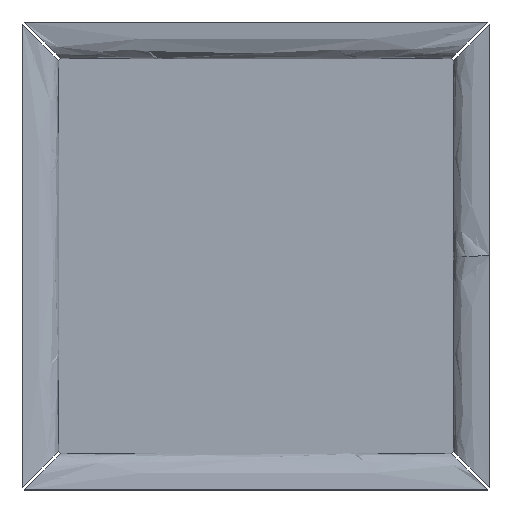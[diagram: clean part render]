
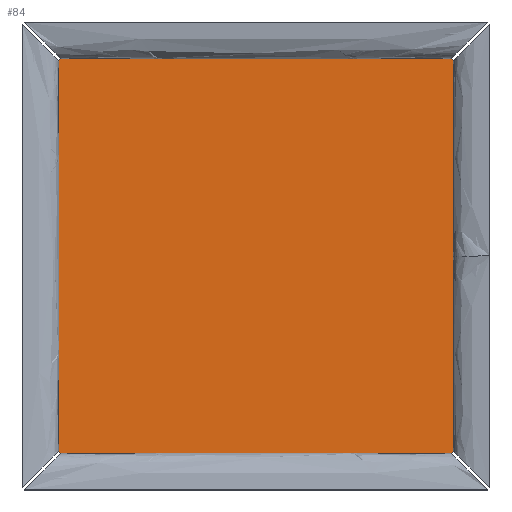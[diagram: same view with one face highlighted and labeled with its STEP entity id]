
A CAD part, top view. The second image highlights one B-rep face of the part: STEP entity #84.
In plain terms, the highlighted planar face has unit normal (0, 0, 1).
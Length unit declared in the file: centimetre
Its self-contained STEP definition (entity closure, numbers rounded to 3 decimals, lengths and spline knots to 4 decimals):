
#84=ADVANCED_FACE($,(#152),#852,.T.);
#152=FACE_OUTER_BOUND($,#220,.T.);
#220=EDGE_LOOP($,(#504,#505,#506,#507,#508,#509,#510,#511));
#504=ORIENTED_EDGE($,*,*,#674,.T.);
#505=ORIENTED_EDGE($,*,*,#688,.T.);
#506=ORIENTED_EDGE($,*,*,#687,.T.);
#507=ORIENTED_EDGE($,*,*,#686,.T.);
#508=ORIENTED_EDGE($,*,*,#685,.T.);
#509=ORIENTED_EDGE($,*,*,#684,.T.);
#510=ORIENTED_EDGE($,*,*,#683,.T.);
#511=ORIENTED_EDGE($,*,*,#682,.T.);
#674=EDGE_CURVE($,#777,#791,#994,.T.);
#682=EDGE_CURVE($,#785,#777,#1002,.T.);
#683=EDGE_CURVE($,#786,#785,#1003,.T.);
#684=EDGE_CURVE($,#787,#786,#1004,.T.);
#685=EDGE_CURVE($,#788,#787,#1005,.T.);
#686=EDGE_CURVE($,#789,#788,#1006,.T.);
#687=EDGE_CURVE($,#790,#789,#1007,.T.);
#688=EDGE_CURVE($,#791,#790,#1008,.T.);
#777=VERTEX_POINT($,#3707);
#785=VERTEX_POINT($,#3715);
#786=VERTEX_POINT($,#3716);
#787=VERTEX_POINT($,#3717);
#788=VERTEX_POINT($,#3718);
#789=VERTEX_POINT($,#3719);
#790=VERTEX_POINT($,#3720);
#791=VERTEX_POINT($,#3721);
#852=PLANE($,#1118);
#994=B_SPLINE_CURVE_WITH_KNOTS($,1,(#3652,#3653),.UNSPECIFIED.,.F.,.F.,(2,
2),(489.3042,490.5062),.UNSPECIFIED.);
#1002=B_SPLINE_CURVE_WITH_KNOTS($,1,(#3668,#3669),.UNSPECIFIED.,.F.,.F.,
(2,2),(981.0125,1143.3125),.UNSPECIFIED.);
#1003=B_SPLINE_CURVE_WITH_KNOTS($,1,(#3670,#3671),.UNSPECIFIED.,.F.,.F.,
(2,2),(979.8104,981.0125),.UNSPECIFIED.);
#1004=B_SPLINE_CURVE_WITH_KNOTS($,1,(#3672,#3673),.UNSPECIFIED.,.F.,.F.,
(2,2),(817.5104,979.8104),.UNSPECIFIED.);
#1005=B_SPLINE_CURVE_WITH_KNOTS($,1,(#3674,#3675),.UNSPECIFIED.,.F.,.F.,
(2,2),(816.3083,817.5104),.UNSPECIFIED.);
#1006=B_SPLINE_CURVE_WITH_KNOTS($,1,(#3676,#3677),.UNSPECIFIED.,.F.,.F.,
(2,2),(654.0083,816.3083),.UNSPECIFIED.);
#1007=B_SPLINE_CURVE_WITH_KNOTS($,1,(#3678,#3679),.UNSPECIFIED.,.F.,.F.,
(2,2),(652.8062,654.0083),.UNSPECIFIED.);
#1008=B_SPLINE_CURVE_WITH_KNOTS($,1,(#3680,#3681),.UNSPECIFIED.,.F.,.F.,
(2,2),(490.5062,652.8062),.UNSPECIFIED.);
#1118=AXIS2_PLACEMENT_3D($,#3698,#1143,$);
#1143=DIRECTION($,(0.,0.,1.));
#3652=CARTESIAN_POINT($,(0.85,164.,3.6));
#3653=CARTESIAN_POINT($,(0.,163.15,3.6));
#3668=CARTESIAN_POINT($,(163.15,164.,3.6));
#3669=CARTESIAN_POINT($,(0.85,164.,3.6));
#3670=CARTESIAN_POINT($,(164.,163.15,3.6));
#3671=CARTESIAN_POINT($,(163.15,164.,3.6));
#3672=CARTESIAN_POINT($,(164.,0.85,3.6));
#3673=CARTESIAN_POINT($,(164.,163.15,3.6));
#3674=CARTESIAN_POINT($,(163.15,0.,3.6));
#3675=CARTESIAN_POINT($,(164.,0.85,3.6));
#3676=CARTESIAN_POINT($,(0.85,0.,3.6));
#3677=CARTESIAN_POINT($,(163.15,0.,3.6));
#3678=CARTESIAN_POINT($,(0.,0.85,3.6));
#3679=CARTESIAN_POINT($,(0.85,0.,3.6));
#3680=CARTESIAN_POINT($,(0.,163.15,3.6));
#3681=CARTESIAN_POINT($,(0.,0.85,3.6));
#3698=CARTESIAN_POINT($,(0.,0.,3.6));
#3707=CARTESIAN_POINT($,(0.85,164.,3.6));
#3715=CARTESIAN_POINT($,(163.15,164.,3.6));
#3716=CARTESIAN_POINT($,(164.,163.15,3.6));
#3717=CARTESIAN_POINT($,(164.,0.85,3.6));
#3718=CARTESIAN_POINT($,(163.15,0.,3.6));
#3719=CARTESIAN_POINT($,(0.85,0.,3.6));
#3720=CARTESIAN_POINT($,(0.,0.85,3.6));
#3721=CARTESIAN_POINT($,(0.,163.15,3.6));
